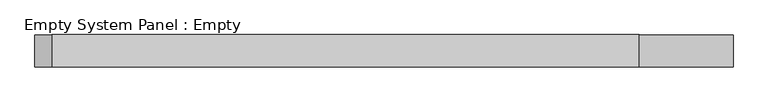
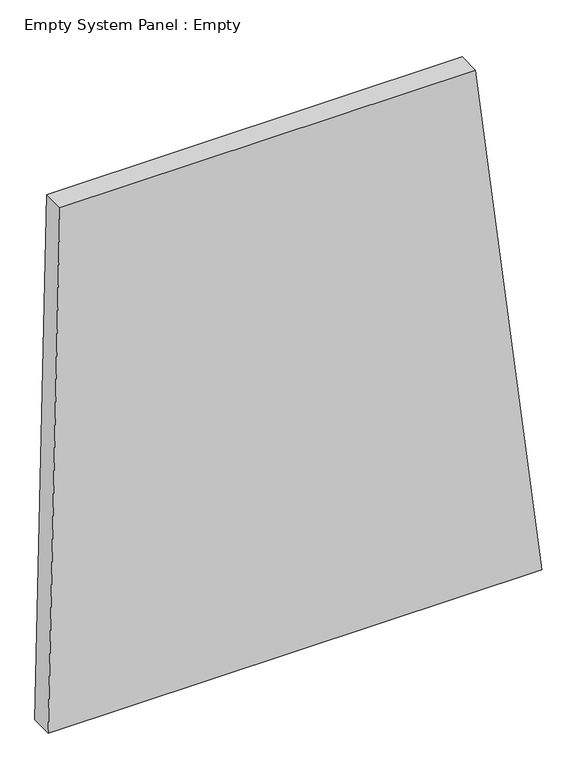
"""IFC4 building model written with IfcOpenShell, lengths in millimetres: plate geometry, Empty System Panel : Empty."""

from ifc_helpers import new_model, si_unit, frame, origin, place, context, project, spatial, polyline, outline, extrude, source, transform, mapped, element, save


def empty_system_panel_empty_bc907498(model_context):
    return source(origin(), model_context, "Body", "SweptSolid", [
        extrude(outline(polyline([(0.0, -1094.4749237), (0.0, 1094.4749237), (2445.4919315, 800.4104587), (2444.4849519, -1042.1378681), (0.0, -1094.4749237)])), frame((0.0, -50.8, 0.0), z_axis=(0.0, 1.0, 0.0), x_axis=(0.0, 0.0, 1.0)), (0.0, 0.0, 1.0), 101.6),
    ])


if __name__ == "__main__":
    model = new_model("IFC4")
    model_context = context("Model", 3, world=origin())
    ifc_project = project(units=[si_unit("LENGTHUNIT", "METRE", prefix="MILLI")], contexts=[model_context])
    site = spatial("IfcSite", under=ifc_project)
    building = spatial("IfcBuilding", under=site)
    placement = place(None, origin())
    empty_system_panel_empty_shape = empty_system_panel_empty_bc907498(model_context)
    element("IfcPlate", 1, ObjectType="Empty System Panel : Empty", at=placement, inside=building, context=model_context, shape_type="MappedRepresentation", body=[
        mapped(empty_system_panel_empty_shape, transform((0.0, 0.0, 0.0), x_axis=(1.0, 0.0, 0.0), y_axis=(0.0, 1.0, 0.0), z_axis=(0.0, 0.0, 1.0))),
    ])
    save(model, "model.ifc")
